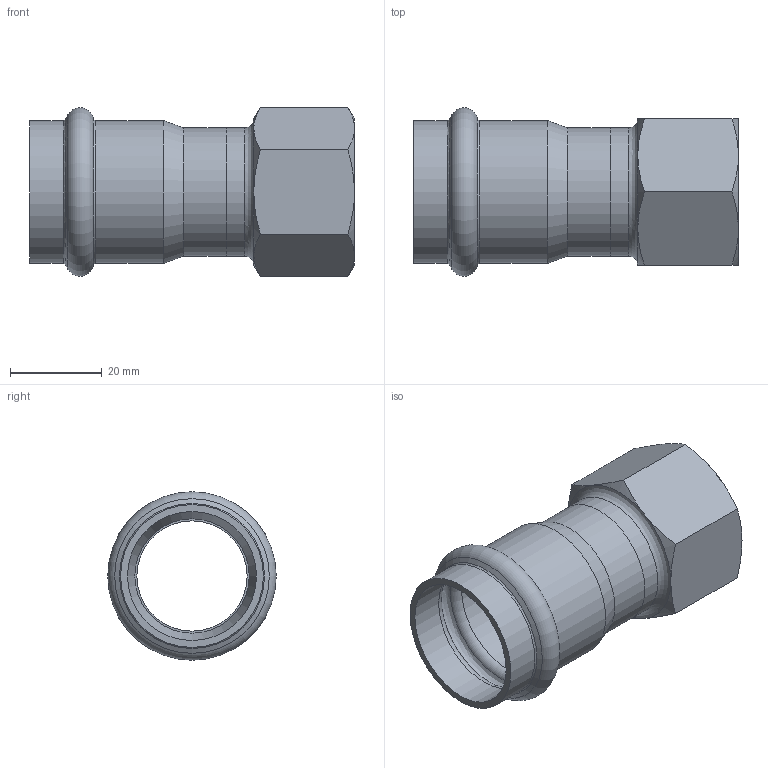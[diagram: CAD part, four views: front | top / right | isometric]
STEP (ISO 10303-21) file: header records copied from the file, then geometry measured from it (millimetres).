
FILE_DESCRIPTION((''),'2;1');
FILE_NAME('G:\Technics\CAD\Bauteile\028\69270G2834(1).stp','2008-02-25T08:32:42',('herberg'),(''),'Autodesk Inventor 2008','Autodesk Inventor 2008','');
FILE_SCHEMA(('AUTOMOTIVE_DESIGN { 1 0 10303 214 1 1 1 1 }'));
Length unit declared in the file: millimetre
Products named in the file (3): 69270G2834(1); 6924328HM(1); IG2834(1)
Assembly tree (2 placements, depth 2):
  69270G2834(1)
    6924328HM(1)
    IG2834(1)
Bounding box: 71 x 36.8 x 36.95 mm (x, y, z)
Volume: 16459.5 mm3; surface area: 14546.3 mm2
Topology: 2 solids, 2 shells, 44 faces, 90 edges, 51 vertices
Faces by surface type: cone 17, plane 10, bspline 7, cylinder 7, torus 3
Full cylindrical faces by diameter (mm): 25 x1, 28 x2, 28.2 x2, 31.2 x2
Entity records: 1300 total; most frequent: CARTESIAN_POINT 462, DIRECTION 164, ORIENTED_EDGE 134, AXIS2_PLACEMENT_3D 79, EDGE_LOOP 70, EDGE_CURVE 67, VERTEX_POINT 49, FACE_OUTER_BOUND 44
